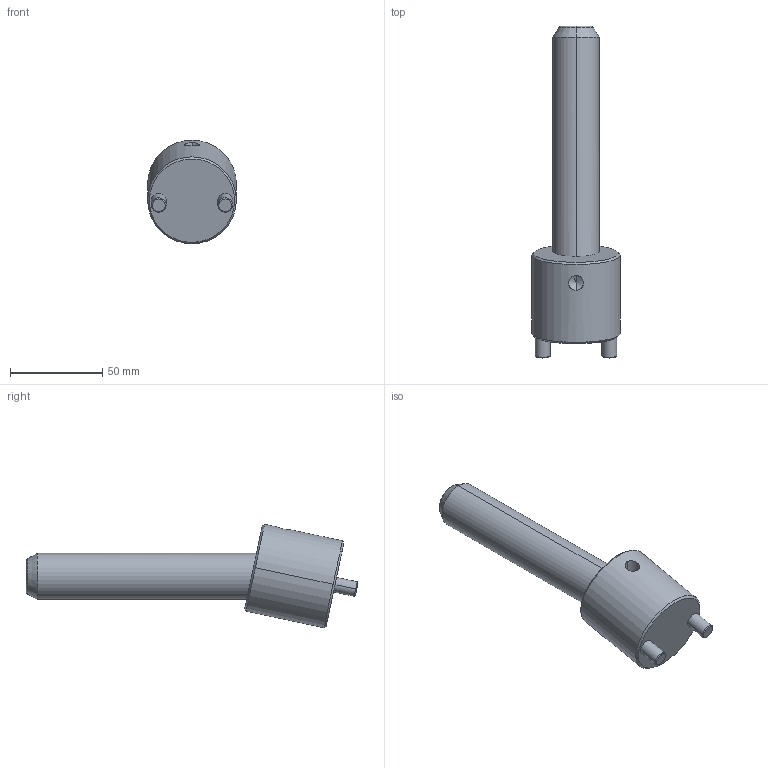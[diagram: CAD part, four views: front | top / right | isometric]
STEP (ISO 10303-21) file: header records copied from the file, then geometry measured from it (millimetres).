
FILE_DESCRIPTION(('CATIA V5 STEP Exchange'),'2;1');
FILE_NAME('C:\Users\Raffaele\Desktop\3D BOLEX\3D FILES CF BOLEX\19-INCLINED ASSEMBLY REF_CI\CI1225125.stp','2019-06-21T14:07:31+00:00',('none'),('none'),'CATIA Version 5 Release 20 GA (IN-10)','CATIA V5 STEP AP203','none');
FILE_SCHEMA(('CONFIG_CONTROL_DESIGN'));
Length unit declared in the file: millimetre
Products named in the file (1): CI1225125
Assembly tree (2 placements, depth 2):
  CI1225125
    #58
    #602
Bounding box: 48 x 179.52 x 55.89 mm (x, y, z)
Volume: 140451 mm3; surface area: 27406 mm2
Topology: 2 solids, 2 shells, 39 faces, 82 edges, 47 vertices
Faces by surface type: cone 14, cylinder 14, plane 7, torus 4
Entity records: 1536 total; most frequent: CARTESIAN_POINT 677, ORIENTED_EDGE 160, DIRECTION 145, EDGE_CURVE 80, AXIS2_PLACEMENT_3D 72, VERTEX_POINT 47, EDGE_LOOP 43, ADVANCED_FACE 39
